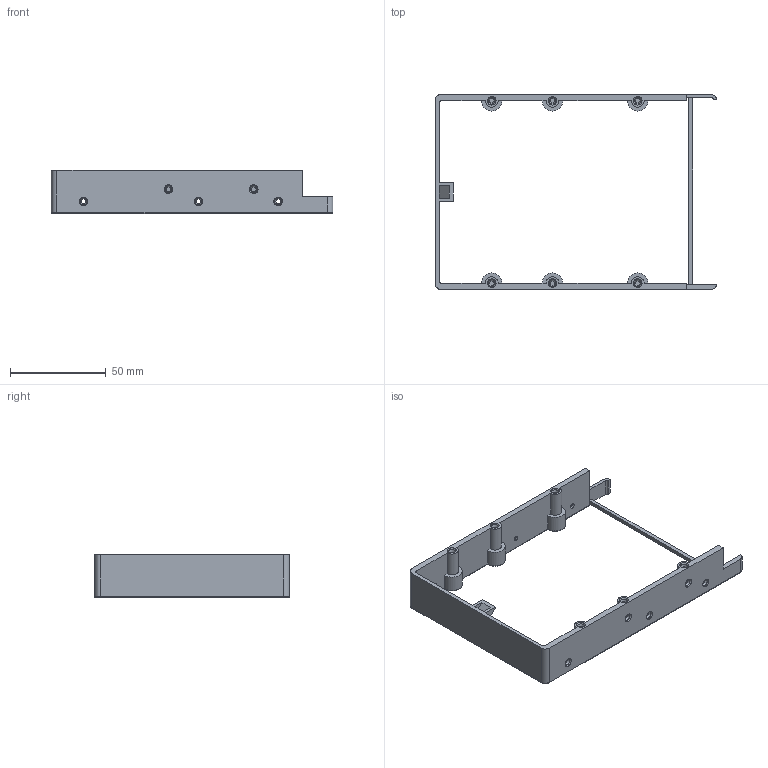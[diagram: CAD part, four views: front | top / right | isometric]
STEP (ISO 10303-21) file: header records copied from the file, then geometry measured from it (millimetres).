
FILE_DESCRIPTION(/* description */ (''),/* implementation_level */ '2;1');
FILE_NAME(/* name */ 'E:/OneDrive/projects/3.5 Hard Drive 50-pin SCSI PCB/123d design/New folder/3.5 Hard Drive Case 50-pin SCSI TH bottom cover.stp',/* time_stamp */ '2022-01-04T23:53:02-05:00',/* author */ (''),/* organization */ (''),/* preprocessor_version */ 'ST-DEVELOPER v15.2',/* originating_system */ 'Autodesk Translator Framework v2.0.0.5431',/* authorisation */ '');
FILE_SCHEMA (('AUTOMOTIVE_DESIGN { 1 0 10303 214 3 1 1 }'));
Length unit declared in the file: centimetre
Products named in the file (1): 3.5 Hard Drive Case 50-pin SCSI TH bottom cover
Bounding box: 147 x 101.6 x 22.5 mm (x, y, z)
Volume: 27160.1 mm3; surface area: 21776.4 mm2
Topology: 1 solids, 1 shells, 162 faces, 382 edges, 238 vertices
Faces by surface type: plane 53, cylinder 53, cone 44, torus 12
Full cylindrical faces by diameter (mm): 2.5 x6, 2.54 x16
Entity records: 4355 total; most frequent: CARTESIAN_POINT 859, DIRECTION 762, ORIENTED_EDGE 600, AXIS2_PLACEMENT_3D 313, EDGE_CURVE 300, EDGE_LOOP 258, VERTEX_POINT 222, ADVANCED_FACE 162
